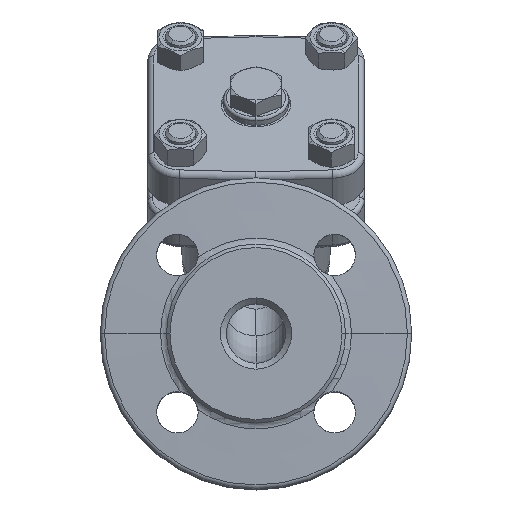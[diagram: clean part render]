
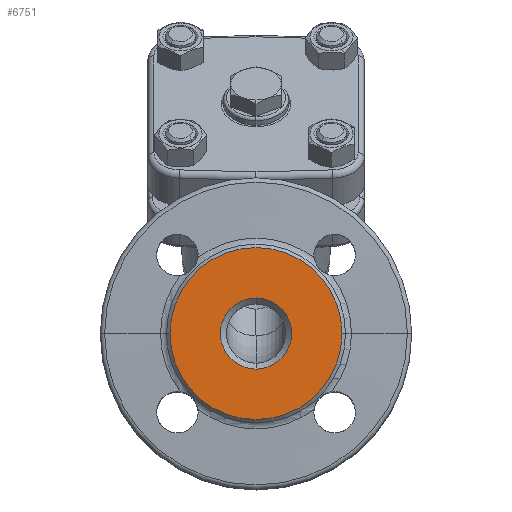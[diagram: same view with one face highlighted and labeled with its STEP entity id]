
A CAD part, top view. The second image highlights one B-rep face of the part: STEP entity #6751.
In plain terms, the highlighted planar face has unit normal (0, 0, 1).
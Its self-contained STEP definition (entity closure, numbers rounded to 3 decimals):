
#186 = EDGE_LOOP ( 'NONE', ( #7389, #7390 ) ) ;
#412 = PLANE ( 'NONE',  #8769 ) ;
#415 = CARTESIAN_POINT ( 'NONE',  ( 0., 0., 150. ) ) ;
#421 = DIRECTION ( 'NONE',  ( 0., 0., -1. ) ) ;
#422 = DIRECTION ( 'NONE',  ( -1., 0., 0. ) ) ;
#1034 = EDGE_LOOP ( 'NONE', ( #7391, #7392 ) ) ;
#1473 = EDGE_CURVE ( 'NONE', #11119, #11120, #5364, .T. ) ;
#1565 = EDGE_CURVE ( 'NONE', #11174, #11175, #5474, .T. ) ;
#2003 = CARTESIAN_POINT ( 'NONE',  ( 0., 0., 150. ) ) ;
#2021 = DIRECTION ( 'NONE',  ( 0., 0., -1. ) ) ;
#2022 = DIRECTION ( 'NONE',  ( -1., 0., 0. ) ) ;
#2758 = CARTESIAN_POINT ( 'NONE',  ( 0., 0., 150. ) ) ;
#2759 = DIRECTION ( 'NONE',  ( 0., 0., -1. ) ) ;
#2760 = DIRECTION ( 'NONE',  ( -1., 0., 0. ) ) ;
#3901 = CARTESIAN_POINT ( 'NONE',  ( 0., 0., 150. ) ) ;
#3908 = DIRECTION ( 'NONE',  ( 0., 0., -1. ) ) ;
#3909 = DIRECTION ( 'NONE',  ( -1., 0., 0. ) ) ;
#3913 = CARTESIAN_POINT ( 'NONE',  ( 0., 0., 150. ) ) ;
#3920 = DIRECTION ( 'NONE',  ( 0., 0., -1. ) ) ;
#3921 = DIRECTION ( 'NONE',  ( -1., 0., 0. ) ) ;
#5364 = CIRCLE ( 'NONE', #6454, 12. ) ;
#5474 = CIRCLE ( 'NONE', #6481, 29. ) ;
#5619 = CIRCLE ( 'NONE', #6568, 12. ) ;
#5623 = CIRCLE ( 'NONE', #6572, 29. ) ;
#6056 = EDGE_CURVE ( 'NONE', #11120, #11119, #5619, .T. ) ;
#6060 = EDGE_CURVE ( 'NONE', #11175, #11174, #5623, .T. ) ;
#6454 = AXIS2_PLACEMENT_3D ( 'NONE', #2003, #2021, #2022 ) ;
#6481 = AXIS2_PLACEMENT_3D ( 'NONE', #2758, #2759, #2760 ) ;
#6568 = AXIS2_PLACEMENT_3D ( 'NONE', #3901, #3908, #3909 ) ;
#6572 = AXIS2_PLACEMENT_3D ( 'NONE', #3913, #3920, #3921 ) ;
#6751 = ADVANCED_FACE ( 'NONE', ( #9579, #9582 ), #412, .F. ) ;
#7389 = ORIENTED_EDGE ( 'NONE', *, *, #1473, .T. ) ;
#7390 = ORIENTED_EDGE ( 'NONE', *, *, #6056, .T. ) ;
#7391 = ORIENTED_EDGE ( 'NONE', *, *, #1565, .F. ) ;
#7392 = ORIENTED_EDGE ( 'NONE', *, *, #6060, .F. ) ;
#8769 = AXIS2_PLACEMENT_3D ( 'NONE', #415, #421, #422 ) ;
#9579 = FACE_BOUND ( 'NONE', #186, .T. ) ;
#9582 = FACE_OUTER_BOUND ( 'NONE', #1034, .T. ) ;
#11119 = VERTEX_POINT ( 'NONE', #22684 ) ;
#11120 = VERTEX_POINT ( 'NONE', #22685 ) ;
#11174 = VERTEX_POINT ( 'NONE', #22739 ) ;
#11175 = VERTEX_POINT ( 'NONE', #22740 ) ;
#22684 = CARTESIAN_POINT ( 'NONE',  ( 0., -12., 150. ) ) ;
#22685 = CARTESIAN_POINT ( 'NONE',  ( 0., 12., 150. ) ) ;
#22739 = CARTESIAN_POINT ( 'NONE',  ( 29., 0., 150. ) ) ;
#22740 = CARTESIAN_POINT ( 'NONE',  ( -29., 0., 150. ) ) ;
